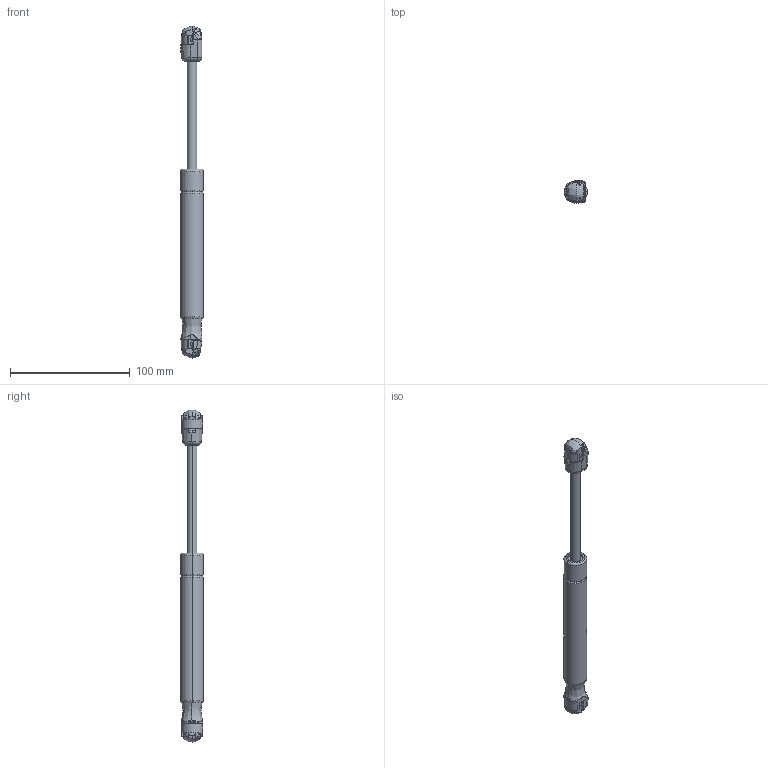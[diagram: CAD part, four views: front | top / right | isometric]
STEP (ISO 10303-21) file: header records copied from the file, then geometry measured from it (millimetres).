
FILE_DESCRIPTION (( 'STEP AP214' ), '1' );
FILE_NAME ('GS08-0300PE10.STEP', '2011-03-23T18:26:21', ( 'user' ), ( '' ), 'SwSTEP 2.0', 'SolidWorks 2011', '' );
FILE_SCHEMA (( 'AUTOMOTIVE_DESIGN' ));
Length unit declared in the file: millimetre
Products named in the file (10): 4098DY_B-SOCKETa; 4098DY_B-SOCKET2-4; 4098DY_B-SOCKET1-4; 7175NH_B-SOCKET_FLARED1; 7175NH_B-SOCKET_FLARED1-2; 7175NH_B-SOCKET_FLARED2-2; GS08-0300PE10-NC; GS08-0300PE10-SHAFT; GS08-0300PE10-TUBE; GS08-0300PE10
Assembly tree (9 placements, depth 3):
  GS08-0300PE10
    GS08-0300PE10-NC
      GS08-0300PE10-SHAFT
      GS08-0300PE10-TUBE
    7175NH_B-SOCKET_FLARED1
      7175NH_B-SOCKET_FLARED1-2
      7175NH_B-SOCKET_FLARED2-2
    4098DY_B-SOCKETa
      4098DY_B-SOCKET2-4
      4098DY_B-SOCKET1-4
Bounding box: 19.05 x 19 x 277 mm (x, y, z)
Volume: 45133.3 mm3; surface area: 19661.6 mm2
Topology: 6 solids, 6 shells, 403 faces, 1085 edges, 683 vertices
Faces by surface type: bspline 140, plane 119, cylinder 118, cone 18, torus 8
Entity records: 18249 total; most frequent: CARTESIAN_POINT 7604, ORIENTED_EDGE 2152, DIRECTION 1574, EDGE_CURVE 1076, VERTEX_POINT 682, AXIS2_PLACEMENT_3D 596, EDGE_LOOP 408, ADVANCED_FACE 403
